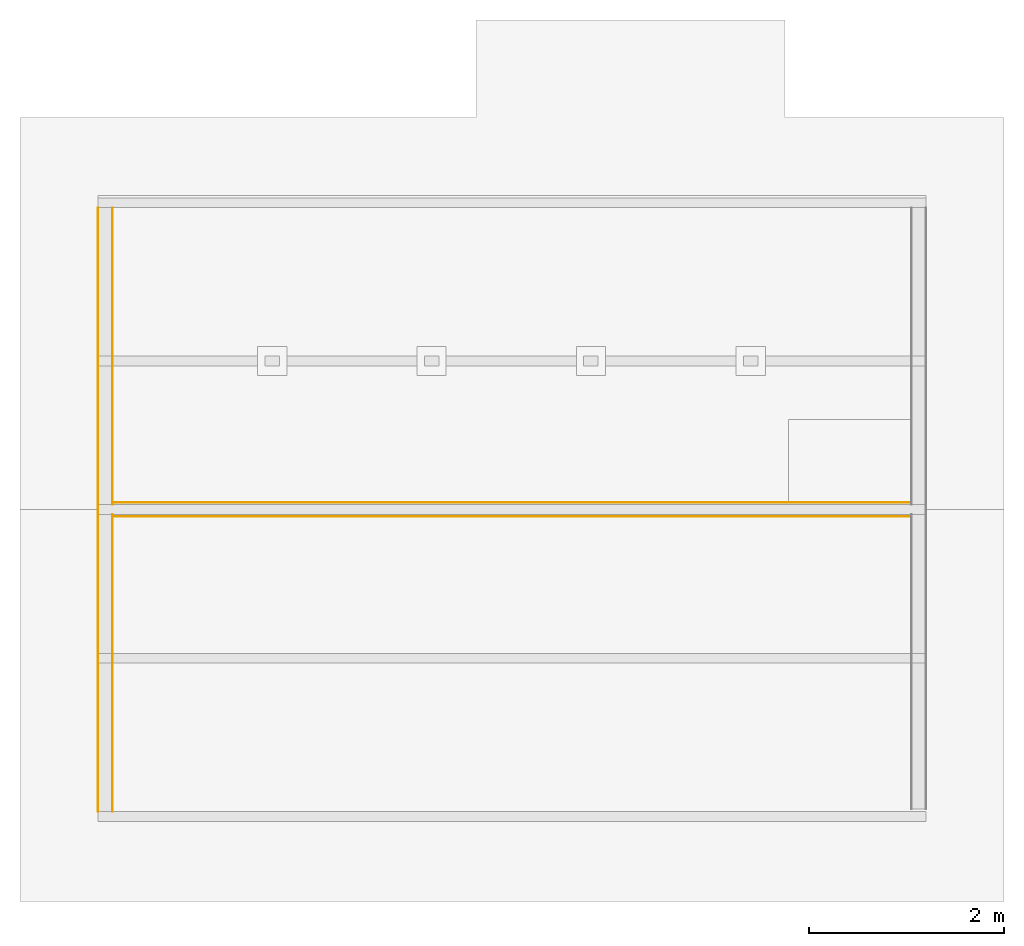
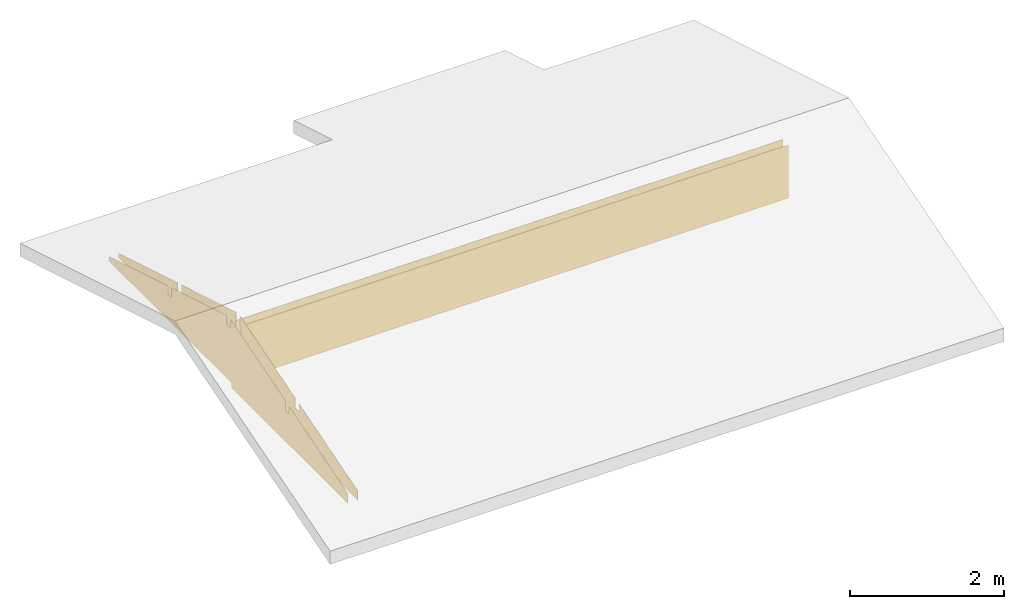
# One storey, part 3 of 4: 4 coverings, 2 elements without a shape of their own.
"""IFC2X3 building model written with IfcOpenShell, lengths in millimetres."""

from ifc_helpers import new_model, entity, si_unit, converted_unit, derived_unit, money_unit, direction, frame, origin_with_axes, place, context, subcontext, project, spatial, polyline, outline, extrude, boolean, faceted_brep, material, type_object, element, aggregate, save


model = new_model("IFC2X3")

# Units and contexts
model_context = context("Model", 3, precision=0.01, world=origin_with_axes(), true_north=direction((0.0, 1.0)))
body_context = subcontext(model_context, "Body", "Model", "MODEL_VIEW")
ifc_project = project(units=[si_unit("LENGTHUNIT", "METRE", prefix="MILLI"), si_unit("AREAUNIT", "SQUARE_METRE"), si_unit("VOLUMEUNIT", "CUBIC_METRE"), converted_unit("PLANEANGLEUNIT", "DEGREE", entity("IfcPlaneAngleMeasure", 0.0174532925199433), si_unit("PLANEANGLEUNIT", "RADIAN"), dimensions=[0, 0, 0, 0, 0, 0, 0]), money_unit("USD"), converted_unit("TIMEUNIT", "Year", entity("IfcTimeMeasure", 31557600.0), si_unit("TIMEUNIT", "SECOND"), dimensions=[0, 0, 1, 0, 0, 0, 0]), si_unit("MASSUNIT", "GRAM", prefix="KILO"), si_unit("THERMODYNAMICTEMPERATUREUNIT", "DEGREE_CELSIUS"), si_unit("LUMINOUSINTENSITYUNIT", "LUMEN"), si_unit("ENERGYUNIT", "JOULE", prefix="MEGA"), derived_unit("THERMALCONDUCTANCEUNIT", [(si_unit("POWERUNIT", "WATT"), 1), (si_unit("LENGTHUNIT", "METRE"), -1), (si_unit("THERMODYNAMICTEMPERATUREUNIT", "KELVIN"), -1)]), derived_unit("SPECIFICHEATCAPACITYUNIT", [(si_unit("ENERGYUNIT", "JOULE"), 1), (si_unit("MASSUNIT", "GRAM", prefix="KILO"), -1), (si_unit("THERMODYNAMICTEMPERATUREUNIT", "KELVIN"), -1)]), derived_unit("MASSDENSITYUNIT", [(si_unit("MASSUNIT", "GRAM", prefix="KILO"), 1), (si_unit("VOLUMEUNIT", "CUBIC_METRE"), -1)])], contexts=[model_context])

# Site, building, storey
site_placement = place(None, origin_with_axes())
site = spatial("IfcSite", under=ifc_project, at=site_placement, Name="Local", CompositionType="ELEMENT")
building_placement = place(site_placement, origin_with_axes())
building = spatial("IfcBuilding", under=site, at=building_placement, Name="Construção", CompositionType="ELEMENT")
storey_placement = place(building_placement, frame((0.0, 0.0, 2500.0), z_axis=(0.0, 0.0, 1.0), x_axis=(1.0, 0.0, 0.0)))
storey = spatial("IfcBuildingStorey", under=building, at=storey_placement, Name="Cobertura", CompositionType="ELEMENT", Elevation=2500.0)

# Wall, coverings
wall_type = type_object("IfcWallType", Name="Alvenaria 140, Rebocada 2 Faces 150", PredefinedType="NOTDEFINED")
wall_1_placement = place(storey_placement, frame((0.0, 6325.000000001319, 0.0), z_axis=(0.0, 0.0, 1.0), x_axis=(0.0, -1.0, 0.0)))
wall_1 = element("IfcWall", 1, at=wall_1_placement, inside=storey, type_object=wall_type, Name="Parede-09")
ifc_material = material(Name="Reboco DEF")
covering_1_placement = place(wall_1_placement, origin_with_axes())
covering_1 = element("IfcCovering", 2, at=covering_1_placement, material=ifc_material, Name="Reboco DEF", PredefinedType="CLADDING", context=body_context, shape_type="CSG", body=[
    boolean("DIFFERENCE", boolean("DIFFERENCE", boolean("DIFFERENCE", boolean("DIFFERENCE", boolean("DIFFERENCE", extrude(outline(polyline([(0.0, 0.0), (6200.000000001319, 0.0), (6200.000000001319, 5.000000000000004), (0.0, 5.000000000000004), (0.0, 0.0)])), origin_with_axes(), (0.0, 0.0, 1.0), 1176.306130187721), faceted_brep([(0.0, 0.0, 80.00000000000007), (0.0, 4.999999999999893, 80.00000000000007), (0.0, 5.000000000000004, 0.0), (0.0, 0.0, 0.0), (3175.000000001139, 0.0, 80.00000000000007), (3175.000000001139, 4.999999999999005, 80.00000000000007), (3175.000000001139, 4.999999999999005, 0.0), (3175.000000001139, 0.0, 0.0)], [[[0, 1, 2, 3]], [[1, 0, 4, 5]], [[5, 6, 2, 1]], [[6, 7, 3, 2]], [[4, 0, 3, 7]], [[7, 6, 5, 4]]])), faceted_brep([(1524.999999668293, 4.999999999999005, 480.4517407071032), (1524.999999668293, 4.999999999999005, 610.4517409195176), (0.0, 4.999999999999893, 152.9517410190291), (0.0, 5.000000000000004, 1176.306130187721), (6200.000000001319, 5.000000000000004, 1176.306130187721), (6200.000000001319, 4.999999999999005, 152.951740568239), (4674.999999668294, 4.999999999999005, 610.4517406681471), (4674.999999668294, 4.999999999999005, 480.4517406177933), (4574.999999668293, 4.999999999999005, 480.4517406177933), (4574.999999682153, 4.999999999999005, 640.4517406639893), (3149.999999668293, 4.999999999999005, 1067.951740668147), (3149.999999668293, 4.999999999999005, 922.9517406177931), (3049.999999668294, 4.999999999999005, 922.9517406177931), (3049.999999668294, 4.999999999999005, 1067.951740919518), (1624.99999960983, 4.999999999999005, 640.4517409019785), (1624.999999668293, 4.999999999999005, 480.4517407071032), (1524.999999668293, 0.0, 480.4517407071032), (1524.999999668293, 0.0, 610.4517409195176), (0.0, 0.0, 152.9517410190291), (0.0, 0.0, 1176.306130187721), (6200.000000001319, 0.0, 1176.306130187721), (6200.000000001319, 0.0, 152.951740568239), (4674.999999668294, 0.0, 610.4517406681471), (4674.999999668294, 0.0, 480.4517406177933), (4574.999999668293, 0.0, 480.4517406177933), (4574.999999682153, 0.0, 640.4517406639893), (3149.999999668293, 0.0, 1067.951740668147), (3149.999999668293, 0.0, 922.9517406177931), (3049.999999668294, 0.0, 922.9517406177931), (3049.999999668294, 0.0, 1067.951740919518), (1624.99999960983, 0.0, 640.4517409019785), (1624.999999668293, 0.0, 480.4517407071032)], [[[0, 1, 2, 3, 4, 5, 6, 7, 8, 9, 10, 11, 12, 13, 14, 15]], [[16, 17, 1, 0]], [[18, 2, 1, 17]], [[2, 18, 19, 3]], [[3, 19, 20, 4]], [[21, 5, 4, 20]], [[6, 5, 21, 22]], [[22, 23, 7, 6]], [[23, 24, 8, 7]], [[24, 25, 9, 8]], [[10, 9, 25, 26]], [[26, 27, 11, 10]], [[27, 28, 12, 11]], [[28, 29, 13, 12]], [[14, 13, 29, 30]], [[30, 31, 15, 14]], [[31, 16, 0, 15]], [[22, 21, 20, 19, 18, 17, 16, 31, 30, 29, 28, 27, 26, 25, 24, 23]]])), faceted_brep([(0.0, 4.999999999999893, 80.00000000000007), (0.0, 144.9999999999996, 80.00000000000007), (0.0, 145.0, 0.0), (0.0, 5.000000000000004, 0.0), (3175.000000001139, 4.999999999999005, 80.00000000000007), (3175.000000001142, 144.9999999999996, 80.00000000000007), (3175.000000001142, 144.9999999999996, 0.0), (3175.000000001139, 4.999999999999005, 0.0)], [[[0, 1, 2, 3]], [[1, 0, 4, 5]], [[5, 6, 2, 1]], [[6, 7, 3, 2]], [[4, 0, 3, 7]], [[7, 6, 5, 4]]])), faceted_brep([(1524.999999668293, 144.9999999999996, 480.4517407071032), (1524.999999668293, 144.9999999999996, 610.4517409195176), (0.0, 144.9999999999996, 152.9517410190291), (0.0, 145.0, 1176.306130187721), (6200.000000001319, 145.0, 1176.306130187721), (6200.000000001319, 144.9999999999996, 152.951740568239), (4674.999999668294, 144.9999999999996, 610.4517406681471), (4674.999999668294, 144.9999999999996, 480.4517406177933), (4574.999999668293, 144.9999999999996, 480.4517406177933), (4574.999999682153, 144.9999999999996, 640.4517406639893), (3149.999999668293, 144.9999999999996, 1067.951740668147), (3149.999999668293, 144.9999999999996, 922.9517406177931), (3049.999999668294, 144.9999999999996, 922.9517406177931), (3049.999999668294, 144.9999999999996, 1067.951740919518), (1624.99999960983, 144.9999999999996, 640.4517409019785), (1624.999999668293, 144.9999999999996, 480.4517407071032), (1524.999999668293, 4.999999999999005, 480.4517407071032), (1524.999999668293, 4.999999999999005, 610.4517409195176), (0.0, 4.999999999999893, 152.9517410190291), (0.0, 5.000000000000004, 1176.306130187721), (6200.000000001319, 5.000000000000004, 1176.306130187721), (6200.000000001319, 4.999999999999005, 152.951740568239), (4674.999999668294, 4.999999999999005, 610.4517406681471), (4674.999999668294, 4.999999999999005, 480.4517406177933), (4574.999999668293, 4.999999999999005, 480.4517406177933), (4574.999999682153, 4.999999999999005, 640.4517406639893), (3149.999999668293, 4.999999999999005, 1067.951740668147), (3149.999999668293, 4.999999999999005, 922.9517406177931), (3049.999999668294, 4.999999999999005, 922.9517406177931), (3049.999999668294, 4.999999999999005, 1067.951740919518), (1624.99999960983, 4.999999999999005, 640.4517409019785), (1624.999999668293, 4.999999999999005, 480.4517407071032)], [[[0, 1, 2, 3, 4, 5, 6, 7, 8, 9, 10, 11, 12, 13, 14, 15]], [[0, 16, 17, 1]], [[18, 2, 1, 17]], [[2, 18, 19, 3]], [[3, 19, 20, 4]], [[21, 5, 4, 20]], [[6, 5, 21, 22]], [[23, 7, 6, 22]], [[7, 23, 24, 8]], [[8, 24, 25, 9]], [[10, 9, 25, 26]], [[27, 11, 10, 26]], [[12, 11, 27, 28]], [[12, 28, 29, 13]], [[14, 13, 29, 30]], [[31, 15, 14, 30]], [[15, 31, 16, 0]], [[22, 21, 20, 19, 18, 17, 16, 31, 30, 29, 28, 27, 26, 25, 24, 23]]])), faceted_brep([(1524.999999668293, 150.0000000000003, 480.4517407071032), (1524.999999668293, 150.0000000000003, 610.4517409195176), (0.0, 150.0000000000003, 152.9517410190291), (0.0, 150.0, 1176.306130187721), (6200.000000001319, 150.0, 1176.306130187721), (6200.000000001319, 149.9999999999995, 152.9517405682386), (4674.999999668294, 149.9999999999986, 610.4517406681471), (4674.999999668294, 149.9999999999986, 480.4517406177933), (4574.999999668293, 150.0000000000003, 480.4517406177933), (4574.999999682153, 150.0000000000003, 640.4517406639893), (3149.999999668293, 149.9999999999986, 1067.951740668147), (3149.999999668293, 149.9999999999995, 922.9517406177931), (3170.000000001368, 149.9999999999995, 922.9517406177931), (3170.000000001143, 149.9999999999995, 80.00000000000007), (3175.000000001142, 149.9999999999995, 80.00000000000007), (3175.000000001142, 149.9999999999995, 0.0), (0.0, 150.0, 0.0), (0.0, 150.0000000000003, 80.00000000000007), (3030.000000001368, 150.0000000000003, 80.00000000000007), (3030.000000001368, 149.9999999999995, 922.9517406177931), (3049.999999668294, 149.9999999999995, 922.9517406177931), (3049.999999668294, 150.0000000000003, 1067.951740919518), (1624.99999960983, 149.9999999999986, 640.4517409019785), (1624.999999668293, 149.9999999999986, 480.4517407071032), (1524.999999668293, 144.9999999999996, 480.4517407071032), (1524.999999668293, 144.9999999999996, 610.4517409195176), (0.0, 144.9999999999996, 152.9517410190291), (0.0, 145.0, 1176.306130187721), (6200.000000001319, 145.0, 1176.306130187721), (6200.000000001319, 144.9999999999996, 152.951740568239), (4674.999999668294, 144.9999999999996, 610.4517406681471), (4674.999999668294, 144.9999999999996, 480.4517406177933), (4574.999999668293, 144.9999999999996, 480.4517406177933), (4574.999999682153, 144.9999999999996, 640.4517406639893), (3149.999999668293, 144.9999999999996, 1067.951740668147), (3149.999999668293, 144.9999999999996, 922.9517406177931), (3170.000000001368, 144.9999999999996, 922.9517406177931), (3170.000000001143, 144.9999999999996, 80.00000000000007), (3175.000000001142, 144.9999999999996, 80.00000000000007), (3175.000000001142, 144.9999999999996, 0.0), (0.0, 145.0, 0.0), (0.0, 144.9999999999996, 80.00000000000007), (3030.000000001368, 144.9999999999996, 80.00000000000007), (3030.000000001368, 144.9999999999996, 922.9517406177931), (3049.999999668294, 144.9999999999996, 922.9517406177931), (3049.999999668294, 144.9999999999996, 1067.951740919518), (1624.99999960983, 144.9999999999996, 640.4517409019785), (1624.999999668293, 144.9999999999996, 480.4517407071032)], [[[0, 1, 2, 3, 4, 5, 6, 7, 8, 9, 10, 11, 12, 13, 14, 15, 16, 17, 18, 19, 20, 21, 22, 23]], [[1, 0, 24, 25]], [[26, 2, 1, 25]], [[2, 26, 27, 3]], [[3, 27, 28, 4]], [[29, 5, 4, 28]], [[6, 5, 29, 30]], [[7, 6, 30, 31]], [[8, 7, 31, 32]], [[9, 8, 32, 33]], [[10, 9, 33, 34]], [[11, 10, 34, 35]], [[12, 11, 35, 36]], [[13, 12, 36, 37]], [[14, 13, 37, 38]], [[15, 14, 38, 39]], [[15, 39, 40, 16]], [[41, 17, 16, 40]], [[18, 17, 41, 42]], [[19, 18, 42, 43]], [[20, 19, 43, 44]], [[21, 20, 44, 45]], [[22, 21, 45, 46]], [[23, 22, 46, 47]], [[0, 23, 47, 24]], [[42, 41, 40, 39, 38, 37, 36, 35, 34, 33, 32, 31, 30, 29, 28, 27, 26, 25, 24, 47, 46, 45, 44, 43]]])),
])
covering_2_placement = place(wall_1_placement, origin_with_axes())
covering_2 = element("IfcCovering", 3, at=covering_2_placement, material=ifc_material, Name="Reboco DEF", PredefinedType="CLADDING", context=body_context, shape_type="CSG", body=[
    boolean("DIFFERENCE", boolean("DIFFERENCE", boolean("DIFFERENCE", boolean("DIFFERENCE", boolean("DIFFERENCE", extrude(outline(polyline([(0.0, 145.0), (6200.000000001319, 145.0), (6200.000000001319, 150.0), (0.0, 150.0), (0.0, 145.0)])), origin_with_axes(), (0.0, 0.0, 1.0), 1176.306130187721), faceted_brep([(0.0, 0.0, 80.00000000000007), (0.0, 4.999999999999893, 80.00000000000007), (0.0, 5.000000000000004, 0.0), (0.0, 0.0, 0.0), (3175.000000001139, 0.0, 80.00000000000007), (3175.000000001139, 4.999999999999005, 80.00000000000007), (3175.000000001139, 4.999999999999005, 0.0), (3175.000000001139, 0.0, 0.0)], [[[0, 1, 2, 3]], [[1, 0, 4, 5]], [[5, 6, 2, 1]], [[6, 7, 3, 2]], [[4, 0, 3, 7]], [[7, 6, 5, 4]]])), faceted_brep([(1524.999999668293, 4.999999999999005, 480.4517407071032), (1524.999999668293, 4.999999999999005, 610.4517409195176), (0.0, 4.999999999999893, 152.9517410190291), (0.0, 5.000000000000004, 1176.306130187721), (6200.000000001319, 5.000000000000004, 1176.306130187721), (6200.000000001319, 4.999999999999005, 152.951740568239), (4674.999999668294, 4.999999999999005, 610.4517406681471), (4674.999999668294, 4.999999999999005, 480.4517406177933), (4574.999999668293, 4.999999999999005, 480.4517406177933), (4574.999999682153, 4.999999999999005, 640.4517406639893), (3149.999999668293, 4.999999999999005, 1067.951740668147), (3149.999999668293, 4.999999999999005, 922.9517406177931), (3049.999999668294, 4.999999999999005, 922.9517406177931), (3049.999999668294, 4.999999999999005, 1067.951740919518), (1624.99999960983, 4.999999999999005, 640.4517409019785), (1624.999999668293, 4.999999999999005, 480.4517407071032), (1524.999999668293, 0.0, 480.4517407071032), (1524.999999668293, 0.0, 610.4517409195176), (0.0, 0.0, 152.9517410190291), (0.0, 0.0, 1176.306130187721), (6200.000000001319, 0.0, 1176.306130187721), (6200.000000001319, 0.0, 152.951740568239), (4674.999999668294, 0.0, 610.4517406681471), (4674.999999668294, 0.0, 480.4517406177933), (4574.999999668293, 0.0, 480.4517406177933), (4574.999999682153, 0.0, 640.4517406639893), (3149.999999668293, 0.0, 1067.951740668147), (3149.999999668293, 0.0, 922.9517406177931), (3049.999999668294, 0.0, 922.9517406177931), (3049.999999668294, 0.0, 1067.951740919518), (1624.99999960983, 0.0, 640.4517409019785), (1624.999999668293, 0.0, 480.4517407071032)], [[[0, 1, 2, 3, 4, 5, 6, 7, 8, 9, 10, 11, 12, 13, 14, 15]], [[16, 17, 1, 0]], [[18, 2, 1, 17]], [[2, 18, 19, 3]], [[3, 19, 20, 4]], [[21, 5, 4, 20]], [[6, 5, 21, 22]], [[22, 23, 7, 6]], [[23, 24, 8, 7]], [[24, 25, 9, 8]], [[10, 9, 25, 26]], [[26, 27, 11, 10]], [[27, 28, 12, 11]], [[28, 29, 13, 12]], [[14, 13, 29, 30]], [[30, 31, 15, 14]], [[31, 16, 0, 15]], [[22, 21, 20, 19, 18, 17, 16, 31, 30, 29, 28, 27, 26, 25, 24, 23]]])), faceted_brep([(0.0, 4.999999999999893, 80.00000000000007), (0.0, 144.9999999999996, 80.00000000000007), (0.0, 145.0, 0.0), (0.0, 5.000000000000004, 0.0), (3175.000000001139, 4.999999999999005, 80.00000000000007), (3175.000000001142, 144.9999999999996, 80.00000000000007), (3175.000000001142, 144.9999999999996, 0.0), (3175.000000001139, 4.999999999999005, 0.0)], [[[0, 1, 2, 3]], [[1, 0, 4, 5]], [[5, 6, 2, 1]], [[6, 7, 3, 2]], [[4, 0, 3, 7]], [[7, 6, 5, 4]]])), faceted_brep([(1524.999999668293, 144.9999999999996, 480.4517407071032), (1524.999999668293, 144.9999999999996, 610.4517409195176), (0.0, 144.9999999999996, 152.9517410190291), (0.0, 145.0, 1176.306130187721), (6200.000000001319, 145.0, 1176.306130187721), (6200.000000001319, 144.9999999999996, 152.951740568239), (4674.999999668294, 144.9999999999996, 610.4517406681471), (4674.999999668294, 144.9999999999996, 480.4517406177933), (4574.999999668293, 144.9999999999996, 480.4517406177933), (4574.999999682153, 144.9999999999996, 640.4517406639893), (3149.999999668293, 144.9999999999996, 1067.951740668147), (3149.999999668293, 144.9999999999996, 922.9517406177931), (3049.999999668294, 144.9999999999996, 922.9517406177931), (3049.999999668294, 144.9999999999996, 1067.951740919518), (1624.99999960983, 144.9999999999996, 640.4517409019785), (1624.999999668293, 144.9999999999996, 480.4517407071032), (1524.999999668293, 4.999999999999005, 480.4517407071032), (1524.999999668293, 4.999999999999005, 610.4517409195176), (0.0, 4.999999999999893, 152.9517410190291), (0.0, 5.000000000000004, 1176.306130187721), (6200.000000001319, 5.000000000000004, 1176.306130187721), (6200.000000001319, 4.999999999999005, 152.951740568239), (4674.999999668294, 4.999999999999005, 610.4517406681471), (4674.999999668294, 4.999999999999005, 480.4517406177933), (4574.999999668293, 4.999999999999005, 480.4517406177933), (4574.999999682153, 4.999999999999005, 640.4517406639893), (3149.999999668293, 4.999999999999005, 1067.951740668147), (3149.999999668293, 4.999999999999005, 922.9517406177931), (3049.999999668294, 4.999999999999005, 922.9517406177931), (3049.999999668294, 4.999999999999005, 1067.951740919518), (1624.99999960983, 4.999999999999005, 640.4517409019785), (1624.999999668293, 4.999999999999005, 480.4517407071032)], [[[0, 1, 2, 3, 4, 5, 6, 7, 8, 9, 10, 11, 12, 13, 14, 15]], [[0, 16, 17, 1]], [[18, 2, 1, 17]], [[2, 18, 19, 3]], [[3, 19, 20, 4]], [[21, 5, 4, 20]], [[6, 5, 21, 22]], [[23, 7, 6, 22]], [[7, 23, 24, 8]], [[8, 24, 25, 9]], [[10, 9, 25, 26]], [[27, 11, 10, 26]], [[12, 11, 27, 28]], [[12, 28, 29, 13]], [[14, 13, 29, 30]], [[31, 15, 14, 30]], [[15, 31, 16, 0]], [[22, 21, 20, 19, 18, 17, 16, 31, 30, 29, 28, 27, 26, 25, 24, 23]]])), faceted_brep([(1524.999999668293, 150.0000000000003, 480.4517407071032), (1524.999999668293, 150.0000000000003, 610.4517409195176), (0.0, 150.0000000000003, 152.9517410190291), (0.0, 150.0, 1176.306130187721), (6200.000000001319, 150.0, 1176.306130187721), (6200.000000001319, 149.9999999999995, 152.9517405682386), (4674.999999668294, 149.9999999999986, 610.4517406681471), (4674.999999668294, 149.9999999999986, 480.4517406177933), (4574.999999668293, 150.0000000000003, 480.4517406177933), (4574.999999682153, 150.0000000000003, 640.4517406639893), (3149.999999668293, 149.9999999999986, 1067.951740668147), (3149.999999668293, 149.9999999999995, 922.9517406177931), (3170.000000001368, 149.9999999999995, 922.9517406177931), (3170.000000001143, 149.9999999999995, 80.00000000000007), (3175.000000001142, 149.9999999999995, 80.00000000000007), (3175.000000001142, 149.9999999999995, 0.0), (0.0, 150.0, 0.0), (0.0, 150.0000000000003, 80.00000000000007), (3030.000000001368, 150.0000000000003, 80.00000000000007), (3030.000000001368, 149.9999999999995, 922.9517406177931), (3049.999999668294, 149.9999999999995, 922.9517406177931), (3049.999999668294, 150.0000000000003, 1067.951740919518), (1624.99999960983, 149.9999999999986, 640.4517409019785), (1624.999999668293, 149.9999999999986, 480.4517407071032), (1524.999999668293, 144.9999999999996, 480.4517407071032), (1524.999999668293, 144.9999999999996, 610.4517409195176), (0.0, 144.9999999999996, 152.9517410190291), (0.0, 145.0, 1176.306130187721), (6200.000000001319, 145.0, 1176.306130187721), (6200.000000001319, 144.9999999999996, 152.951740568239), (4674.999999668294, 144.9999999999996, 610.4517406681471), (4674.999999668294, 144.9999999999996, 480.4517406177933), (4574.999999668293, 144.9999999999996, 480.4517406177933), (4574.999999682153, 144.9999999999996, 640.4517406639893), (3149.999999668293, 144.9999999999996, 1067.951740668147), (3149.999999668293, 144.9999999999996, 922.9517406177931), (3170.000000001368, 144.9999999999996, 922.9517406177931), (3170.000000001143, 144.9999999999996, 80.00000000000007), (3175.000000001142, 144.9999999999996, 80.00000000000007), (3175.000000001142, 144.9999999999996, 0.0), (0.0, 145.0, 0.0), (0.0, 144.9999999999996, 80.00000000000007), (3030.000000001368, 144.9999999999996, 80.00000000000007), (3030.000000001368, 144.9999999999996, 922.9517406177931), (3049.999999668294, 144.9999999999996, 922.9517406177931), (3049.999999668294, 144.9999999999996, 1067.951740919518), (1624.99999960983, 144.9999999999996, 640.4517409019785), (1624.999999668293, 144.9999999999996, 480.4517407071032)], [[[0, 1, 2, 3, 4, 5, 6, 7, 8, 9, 10, 11, 12, 13, 14, 15, 16, 17, 18, 19, 20, 21, 22, 23]], [[1, 0, 24, 25]], [[26, 2, 1, 25]], [[2, 26, 27, 3]], [[3, 27, 28, 4]], [[29, 5, 4, 28]], [[6, 5, 29, 30]], [[7, 6, 30, 31]], [[8, 7, 31, 32]], [[9, 8, 32, 33]], [[10, 9, 33, 34]], [[11, 10, 34, 35]], [[12, 11, 35, 36]], [[13, 12, 36, 37]], [[14, 13, 37, 38]], [[15, 14, 38, 39]], [[15, 39, 40, 16]], [[41, 17, 16, 40]], [[18, 17, 41, 42]], [[19, 18, 42, 43]], [[20, 19, 43, 44]], [[21, 20, 44, 45]], [[22, 21, 45, 46]], [[23, 22, 46, 47]], [[0, 23, 47, 24]], [[42, 41, 40, 39, 38, 37, 36, 35, 34, 33, 32, 31, 30, 29, 28, 27, 26, 25, 24, 47, 46, 45, 44, 43]]])),
])
aggregate(wall_1, [covering_1, covering_2])

wall_2_placement = place(storey_placement, frame((8500.0, 3299.99999999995, 0.0), z_axis=(0.0, 0.0, 1.0), x_axis=(-1.0, 0.0, 0.0)))
wall_2 = element("IfcWall", 4, at=wall_2_placement, inside=storey, type_object=wall_type, Name="Parede-11")
covering_3_placement = place(wall_2_placement, origin_with_axes())
covering_3 = element("IfcCovering", 5, at=covering_3_placement, material=ifc_material, Name="Reboco DEF", PredefinedType="CLADDING", context=body_context, shape_type="CSG", body=[
    boolean("DIFFERENCE", boolean("DIFFERENCE", boolean("DIFFERENCE", extrude(outline(polyline([(0.0, 0.0), (8500.0, 0.0), (8500.0, 4.999999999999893), (0.0, 4.999999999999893), (0.0, 0.0)])), origin_with_axes(), (0.0, 0.0, 1.0), 922.9517406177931), faceted_brep([(8350.0, 2.255973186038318e-10, 80.00000000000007), (150.0000000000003, 0.0, 80.00000000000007), (150.0000000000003, 0.0, 922.9517406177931), (0.0, 0.0, 922.9517406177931), (0.0, 0.0, 0.0), (8500.0, 0.0, 0.0), (8500.0, 0.0, 922.9517406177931), (8350.0, 2.255973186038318e-10, 922.9517406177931), (8350.0, 5.000000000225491, 80.00000000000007), (150.0000000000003, 5.00000000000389, 80.00000000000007), (150.0000000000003, 5.00000000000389, 922.9517406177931), (0.0, 4.999999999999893, 922.9517406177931), (0.0, 4.999999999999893, 0.0), (8500.0, 4.999999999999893, 0.0), (8500.0, 4.999999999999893, 922.9517406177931), (8350.0, 5.000000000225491, 922.9517406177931)], [[[0, 1, 2, 3, 4, 5, 6, 7]], [[1, 0, 8, 9]], [[10, 2, 1, 9]], [[2, 10, 11, 3]], [[11, 12, 4, 3]], [[5, 4, 12, 13]], [[6, 5, 13, 14]], [[15, 7, 6, 14]], [[0, 7, 15, 8]], [[8, 15, 14, 13, 12, 11, 10, 9]]])), faceted_brep([(144.9999999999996, 5.00000000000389, 80.00000000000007), (144.9999999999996, 5.00000000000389, 922.9517406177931), (0.0, 4.999999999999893, 922.9517406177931), (0.0, 4.999999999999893, 0.0), (8500.0, 4.999999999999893, 0.0), (8500.0, 4.999999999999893, 922.9517406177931), (8355.0, 5.000000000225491, 922.9517406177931), (8355.0, 5.000000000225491, 80.00000000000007), (144.999999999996, 145.000000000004, 922.9517406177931), (144.999999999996, 145.000000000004, 80.00000000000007), (0.0, 145.0, 922.9517406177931), (0.0, 145.0, 0.0), (8500.0, 145.0, 0.0), (8500.0, 145.0, 922.9517406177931), (8354.999999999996, 145.0000000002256, 922.9517406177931), (8354.999999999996, 145.0000000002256, 80.00000000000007)], [[[0, 1, 2, 3, 4, 5, 6, 7]], [[8, 1, 0, 9]], [[1, 8, 10, 2]], [[10, 11, 3, 2]], [[4, 3, 11, 12]], [[5, 4, 12, 13]], [[14, 6, 5, 13]], [[7, 6, 14, 15]], [[0, 7, 15, 9]], [[15, 14, 13, 12, 11, 10, 8, 9]]])), faceted_brep([(8349.999999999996, 145.0000000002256, 80.00000000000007), (149.9999999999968, 145.000000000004, 80.00000000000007), (149.9999999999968, 145.000000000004, 922.9517406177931), (0.0, 145.0, 922.9517406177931), (0.0, 145.0, 0.0), (8500.0, 145.0, 0.0), (8500.0, 145.0, 922.9517406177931), (8349.999999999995, 145.0000000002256, 922.9517406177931), (8349.999999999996, 150.0000000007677, 80.00000000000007), (149.9999999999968, 150.0000000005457, 80.00000000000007), (149.9999999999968, 150.0000000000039, 922.9517406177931), (0.0, 149.9999999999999, 922.9517406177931), (0.0, 149.9999999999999, 0.0), (8500.0, 149.9999999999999, 0.0), (8500.0, 149.9999999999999, 922.9517406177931), (8349.999999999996, 150.0000000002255, 922.9517406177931)], [[[0, 1, 2, 3, 4, 5, 6, 7]], [[8, 9, 1, 0]], [[10, 2, 1, 9]], [[2, 10, 11, 3]], [[11, 12, 4, 3]], [[5, 4, 12, 13]], [[6, 5, 13, 14]], [[15, 7, 6, 14]], [[0, 7, 15, 8]], [[8, 15, 14, 13, 12, 11, 10, 9]]])),
])
covering_4_placement = place(wall_2_placement, origin_with_axes())
covering_4 = element("IfcCovering", 6, at=covering_4_placement, material=ifc_material, Name="Reboco DEF", PredefinedType="CLADDING", context=body_context, shape_type="CSG", body=[
    boolean("DIFFERENCE", boolean("DIFFERENCE", boolean("DIFFERENCE", extrude(outline(polyline([(0.0, 145.0), (8500.0, 145.0), (8500.0, 149.9999999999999), (0.0, 149.9999999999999), (0.0, 145.0)])), origin_with_axes(), (0.0, 0.0, 1.0), 922.9517406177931), faceted_brep([(8350.0, 2.255973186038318e-10, 80.00000000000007), (150.0000000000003, 0.0, 80.00000000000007), (150.0000000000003, 0.0, 922.9517406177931), (0.0, 0.0, 922.9517406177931), (0.0, 0.0, 0.0), (8500.0, 0.0, 0.0), (8500.0, 0.0, 922.9517406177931), (8350.0, 2.255973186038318e-10, 922.9517406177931), (8350.0, 5.000000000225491, 80.00000000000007), (150.0000000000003, 5.00000000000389, 80.00000000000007), (150.0000000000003, 5.00000000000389, 922.9517406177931), (0.0, 4.999999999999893, 922.9517406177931), (0.0, 4.999999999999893, 0.0), (8500.0, 4.999999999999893, 0.0), (8500.0, 4.999999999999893, 922.9517406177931), (8350.0, 5.000000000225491, 922.9517406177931)], [[[0, 1, 2, 3, 4, 5, 6, 7]], [[1, 0, 8, 9]], [[10, 2, 1, 9]], [[2, 10, 11, 3]], [[11, 12, 4, 3]], [[5, 4, 12, 13]], [[6, 5, 13, 14]], [[15, 7, 6, 14]], [[0, 7, 15, 8]], [[8, 15, 14, 13, 12, 11, 10, 9]]])), faceted_brep([(144.9999999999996, 5.00000000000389, 80.00000000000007), (144.9999999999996, 5.00000000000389, 922.9517406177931), (0.0, 4.999999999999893, 922.9517406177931), (0.0, 4.999999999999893, 0.0), (8500.0, 4.999999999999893, 0.0), (8500.0, 4.999999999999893, 922.9517406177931), (8355.0, 5.000000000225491, 922.9517406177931), (8355.0, 5.000000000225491, 80.00000000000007), (144.999999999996, 145.000000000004, 922.9517406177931), (144.999999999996, 145.000000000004, 80.00000000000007), (0.0, 145.0, 922.9517406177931), (0.0, 145.0, 0.0), (8500.0, 145.0, 0.0), (8500.0, 145.0, 922.9517406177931), (8354.999999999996, 145.0000000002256, 922.9517406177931), (8354.999999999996, 145.0000000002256, 80.00000000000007)], [[[0, 1, 2, 3, 4, 5, 6, 7]], [[8, 1, 0, 9]], [[1, 8, 10, 2]], [[10, 11, 3, 2]], [[4, 3, 11, 12]], [[5, 4, 12, 13]], [[14, 6, 5, 13]], [[7, 6, 14, 15]], [[0, 7, 15, 9]], [[15, 14, 13, 12, 11, 10, 8, 9]]])), faceted_brep([(8349.999999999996, 145.0000000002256, 80.00000000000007), (149.9999999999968, 145.000000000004, 80.00000000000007), (149.9999999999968, 145.000000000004, 922.9517406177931), (0.0, 145.0, 922.9517406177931), (0.0, 145.0, 0.0), (8500.0, 145.0, 0.0), (8500.0, 145.0, 922.9517406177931), (8349.999999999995, 145.0000000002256, 922.9517406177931), (8349.999999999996, 150.0000000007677, 80.00000000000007), (149.9999999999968, 150.0000000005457, 80.00000000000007), (149.9999999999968, 150.0000000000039, 922.9517406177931), (0.0, 149.9999999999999, 922.9517406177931), (0.0, 149.9999999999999, 0.0), (8500.0, 149.9999999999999, 0.0), (8500.0, 149.9999999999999, 922.9517406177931), (8349.999999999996, 150.0000000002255, 922.9517406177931)], [[[0, 1, 2, 3, 4, 5, 6, 7]], [[8, 9, 1, 0]], [[10, 2, 1, 9]], [[2, 10, 11, 3]], [[11, 12, 4, 3]], [[5, 4, 12, 13]], [[6, 5, 13, 14]], [[15, 7, 6, 14]], [[0, 7, 15, 8]], [[8, 15, 14, 13, 12, 11, 10, 9]]])),
])
aggregate(wall_2, [covering_3, covering_4])

save(model, "model.ifc")
